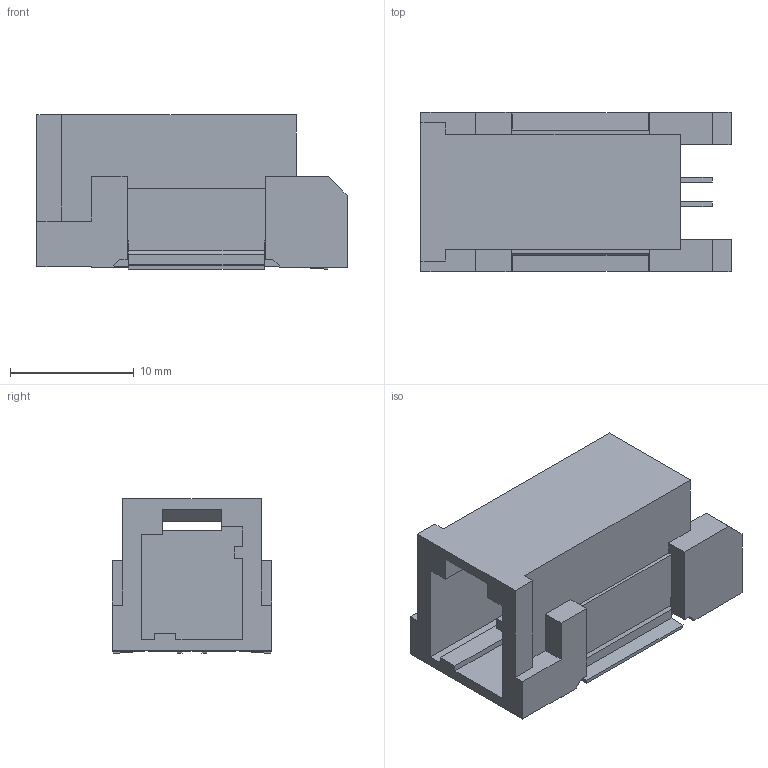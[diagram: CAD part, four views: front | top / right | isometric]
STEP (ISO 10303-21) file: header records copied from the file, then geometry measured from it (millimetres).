
FILE_DESCRIPTION(('CATIA V5 STEP','CAx-IF Rec.Pracs.--- Model Styling and Organization---1.4--- 2014-01-23'),'2;1');
FILE_NAME('\\fs0427\Server\共有情報\コネクタ開発部\特命業務\特ｰ35ｰ部品総合カタログメンテナンス\21年度\掲載用３Dモデル\ETHERNET\ETHERNET３D(トヨタ提出していないものがあるのでチェックしてください）\6910-6268.stp','2023-04-05T23:38:20+00:00',('none'),('none'),'CATIA Version 5-6 Release 2017 SP5 HF58','CATIA V5 STEP AP214','none');
FILE_SCHEMA(('AUTOMOTIVE_DESIGN { 1 0 10303 214 1 1 1 1 }'));
Length unit declared in the file: millimetre
Products named in the file (1): 6910-8268
Bounding box: 25.1 x 12.9 x 12.5 mm (x, y, z)
Volume: 1649.3 mm3; surface area: 2289.7 mm2
Topology: 1 solids, 1 shells, 141 faces, 416 edges, 278 vertices
Faces by surface type: plane 141
Entity records: 4443 total; most frequent: ORIENTED_EDGE 832, CARTESIAN_POINT 822, DIRECTION 586, EDGE_CURVE 416, VECTOR 402, LINE 402, VERTEX_POINT 278, EDGE_LOOP 144
